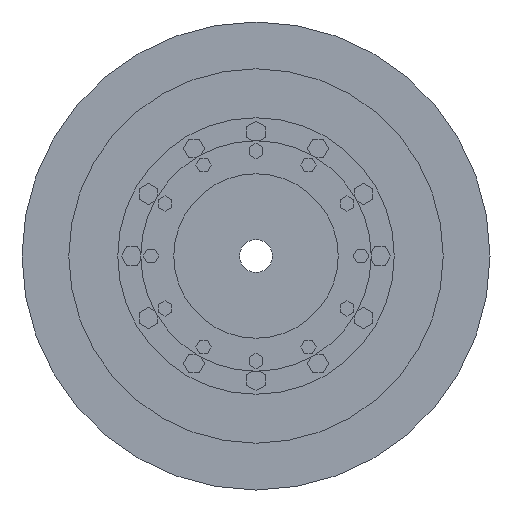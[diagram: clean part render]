
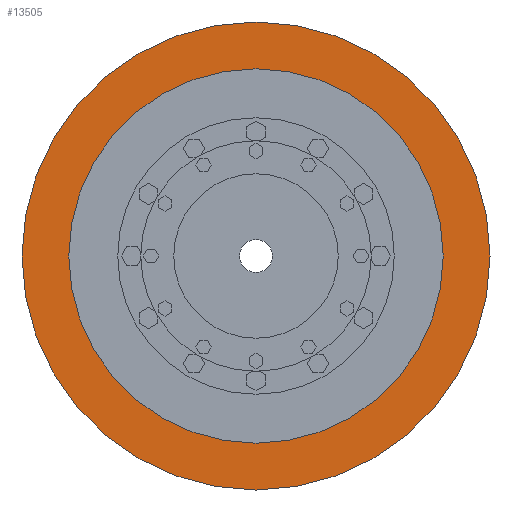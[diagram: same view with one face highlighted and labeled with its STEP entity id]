
A CAD part, left-side view. The second image highlights one B-rep face of the part: STEP entity #13505.
In plain terms, the highlighted planar face has unit normal (-1, 0, 0).
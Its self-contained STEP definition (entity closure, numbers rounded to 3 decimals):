
#13302=CARTESIAN_POINT('',(-6.35,0.,0.));
#13303=DIRECTION('',(-1.,0.,0.));
#13304=DIRECTION('',(0.,1.,0.));
#13305=AXIS2_PLACEMENT_3D('',#13302,#13303,#13304);
#13307=CARTESIAN_POINT('',(-6.35,0.,0.));
#13308=DIRECTION('',(1.,0.,0.));
#13309=DIRECTION('',(0.,1.,0.));
#13310=AXIS2_PLACEMENT_3D('',#13307,#13308,#13309);
#13312=CARTESIAN_POINT('',(-6.35,0.,0.));
#13313=DIRECTION('',(1.,0.,0.));
#13314=DIRECTION('',(0.,1.,0.));
#13315=AXIS2_PLACEMENT_3D('',#13312,#13313,#13314);
#13325=CARTESIAN_POINT('',(-6.35,0.,0.));
#13326=DIRECTION('',(-1.,0.,0.));
#13327=DIRECTION('',(0.,1.,0.));
#13328=AXIS2_PLACEMENT_3D('',#13325,#13326,#13327);
#13348=CARTESIAN_POINT('',(-6.35,182.8,0.));
#13350=VERTEX_POINT('',#13348);
#13360=CARTESIAN_POINT('',(-6.35,-182.8,0.));
#13362=VERTEX_POINT('',#13360);
#13365=CARTESIAN_POINT('',(-6.35,228.5,0.));
#13367=VERTEX_POINT('',#13365);
#13369=CARTESIAN_POINT('',(-6.35,-228.5,0.));
#13371=VERTEX_POINT('',#13369);
#13490=CARTESIAN_POINT('',(-6.35,0.,0.));
#13491=DIRECTION('',(1.,0.,0.));
#13492=DIRECTION('',(0.,-1.,0.));
#13493=AXIS2_PLACEMENT_3D('',#13490,#13491,#13492);
#13494=PLANE('',#13493);
#13495=ORIENTED_EDGE('',*,*,#13483,.F.);
#13496=ORIENTED_EDGE('',*,*,#13472,.T.);
#13497=EDGE_LOOP('',(#13495,#13496));
#13498=FACE_OUTER_BOUND('',#13497,.F.);
#13500=ORIENTED_EDGE('',*,*,#13499,.F.);
#13502=ORIENTED_EDGE('',*,*,#13501,.T.);
#13503=EDGE_LOOP('',(#13500,#13502));
#13504=FACE_BOUND('',#13503,.F.);
#13505=ADVANCED_FACE('',(#13498,#13504),#13494,.F.);
#13306=CIRCLE('',#13305,228.5);
#13311=CIRCLE('',#13310,228.5);
#13316=CIRCLE('',#13315,182.8);
#13329=CIRCLE('',#13328,182.8);
#13472=EDGE_CURVE('',#13367,#13371,#13311,.T.);
#13483=EDGE_CURVE('',#13367,#13371,#13306,.T.);
#13499=EDGE_CURVE('',#13350,#13362,#13316,.T.);
#13501=EDGE_CURVE('',#13350,#13362,#13329,.T.);
